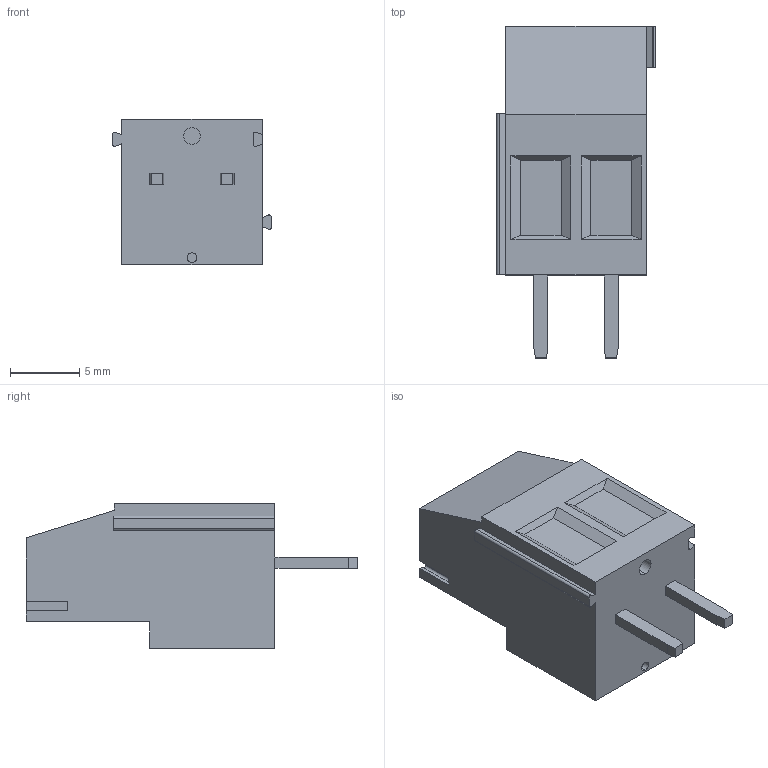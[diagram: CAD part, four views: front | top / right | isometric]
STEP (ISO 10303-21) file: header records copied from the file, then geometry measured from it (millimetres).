
FILE_DESCRIPTION (( 'STEP AP203' ), '1' );
FILE_NAME ('BR902V.STEP', '2019-05-30T17:45:11', ( '' ), ( '' ), 'SwSTEP 2.0', 'SolidWorks 2012', '' );
FILE_SCHEMA (( 'CONFIG_CONTROL_DESIGN' ));
Length unit declared in the file: millimetre
Products named in the file (1): BR902V
Bounding box: 11.46 x 24 x 10.5 mm (x, y, z)
Volume: 1551 mm3; surface area: 1177.7 mm2
Topology: 1 solids, 1 shells, 152 faces, 384 edges, 246 vertices
Faces by surface type: plane 74, cylinder 40, cone 24, bspline 14
Entity records: 4825 total; most frequent: CARTESIAN_POINT 1075, DIRECTION 774, ORIENTED_EDGE 768, EDGE_CURVE 384, AXIS2_PLACEMENT_3D 273, VERTEX_POINT 246, VECTOR 228, LINE 228
